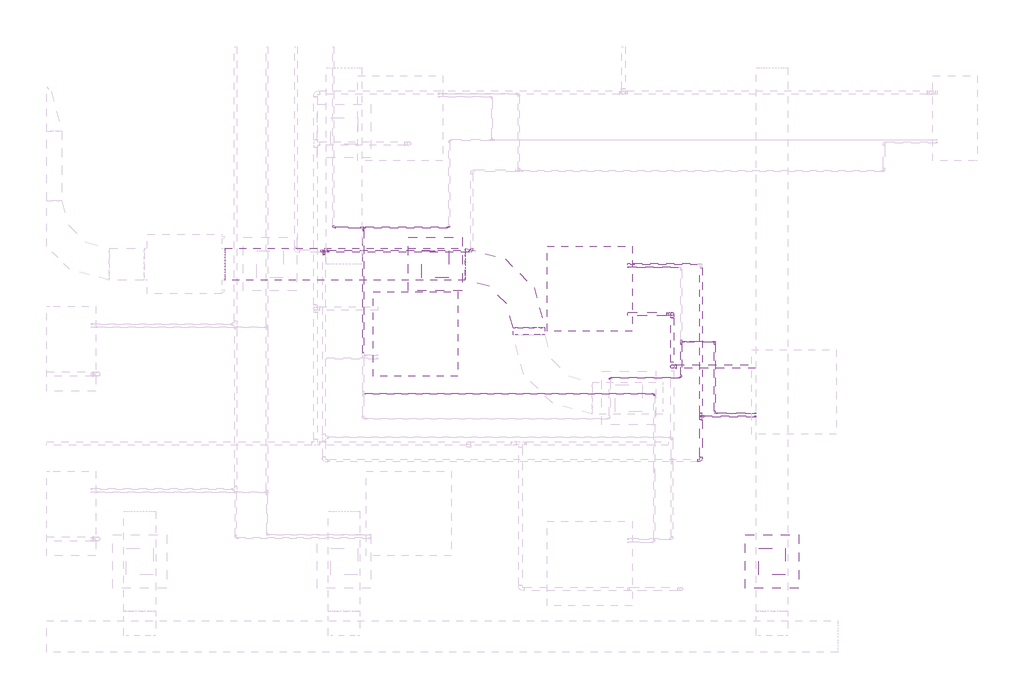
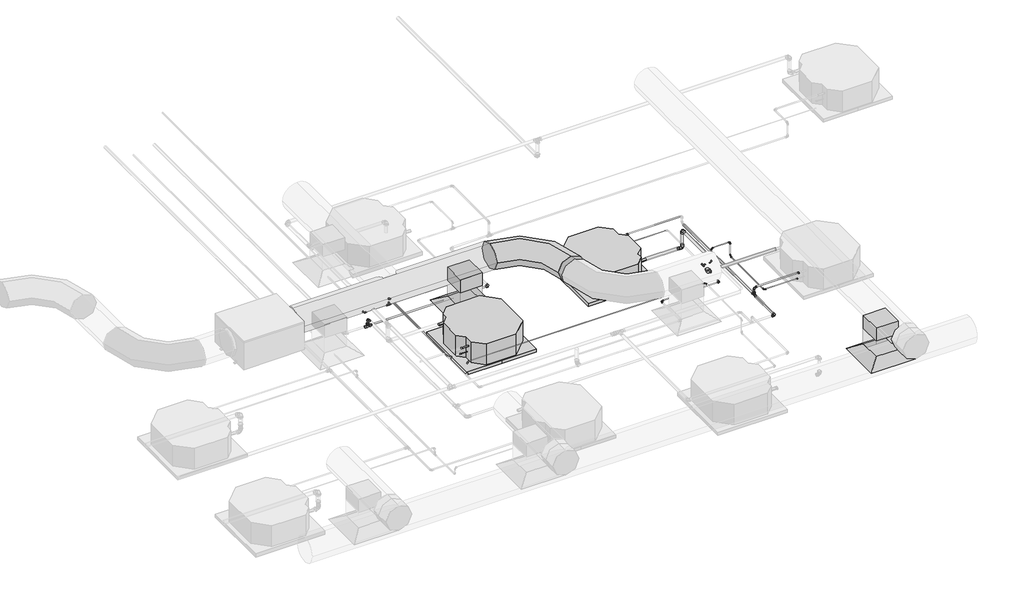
# One storey, part 7 of 21: 34 pipe fittings, 27 pipe segments, 4 duct segments, 3 duct fittings, 2 air terminals, 2 proxies.
"""IFC4 building model written with IfcOpenShell, lengths in millimetres."""

from ifc_helpers import new_model, si_unit, point, frame, frame_2d, origin, place, context, project, spatial, polyline, circle_curve, trimmed, segment, composite_curve, outline, extrude, transform, mapped, element, save
from components import air_terminal_ff221211, mechanical_equipment_53173f38, duct_fitting_550a0fe9, duct_fitting_2_d_8456317d, pipe_fitting_535881cf, pipe_fitting_ec53ccd8, pipe_fitting_1c810b01, pipe_fitting_182e23ec, pipe_fitting_c9ced03d, pipe_fitting_5aefb692, pipe_fitting_1806753b, pipe_fitting_8aefc26a, pipe_fitting_49f59843, pipe_fitting_759c20bf, pipe_fitting_fcb7d889, pipe_fitting_a6d4f0b3, pipe_fitting_ae63b9ff, pipe_fitting_c2f0a3c7, pipe_fitting_c900cfc2, pipe_fitting_16c020f5, pipe_fitting_d3e019f1, pipe_fitting_59d1f3e3, pipe_fitting_648138cd, pipe_fitting_ae0032d9, pipe_fitting_da16c1b3, pipe_fitting_5a6d96d3, pipe_fitting_3e80353c

model = new_model("IFC4")

# Units and contexts
model_context = context("Model", 3, world=origin())
ifc_project = project(units=[si_unit("LENGTHUNIT", "METRE", prefix="MILLI")], contexts=[model_context])

# Site, building, storey
site = spatial("IfcSite", under=ifc_project)
building = spatial("IfcBuilding", under=site)
storey = spatial("IfcBuildingStorey", under=building, Name="Nível 1", Elevation=0.0)

# Air terminals
placement = place(None, origin())
air_terminal_shape = air_terminal_ff221211(model_context)
element("IfcAirTerminal", 1, ObjectType="M_Difusor de retorno : 600 x 600 Face 300 x 300 Conexão", at=placement, inside=storey, context=model_context, shape_type="MappedRepresentation", body=[
    mapped(air_terminal_shape, transform((9308.4484061, -4543.7697994, 3000.0), x_axis=(0.0, -1.0, 0.0), y_axis=(1.0, 0.0, 0.0), z_axis=(0.0, 0.0, 1.0))),
])
element("IfcAirTerminal", 2, ObjectType="M_Difusor de fornecimento : 600 x 600 Face 300 x 300 Conexão", at=placement, inside=storey, context=model_context, shape_type="MappedRepresentation", body=[
    mapped(air_terminal_shape, transform((13079.0500257, -7871.8680027, 3000.0), x_axis=(1.0, 0.0, 0.0), y_axis=(0.0, 1.0, 0.0), z_axis=(0.0, 0.0, 1.0))),
])

# Proxies
mechanical_equipment_shape = mechanical_equipment_53173f38(model_context)
element("IfcBuildingElementProxy", 3, Name="Midea_VRF_Indoor_4-way Cassette_MI-90(100,112,140)Q4_DHN1-D (2nd DC) : MI2-140Q4DHN1", ObjectType="Midea_VRF_Indoor_4-way Cassette_MI-90(100,112,140)Q4_DHN1-D (2nd DC) : MI2-140Q4DHN1", at=placement, inside=storey, context=model_context, shape_type="MappedRepresentation", body=[
    mapped(mechanical_equipment_shape, transform((9087.5318022, -5325.569149, 3000.0), x_axis=(-1.0, 0.0, 0.0), y_axis=(0.0, -1.0, 0.0), z_axis=(0.0, 0.0, 1.0))),
])
element("IfcBuildingElementProxy", 4, Name="Midea_VRF_Indoor_4-way Cassette_MI-90(100,112,140)Q4_DHN1-D (2nd DC) : MI2-140Q4DHN1", ObjectType="Midea_VRF_Indoor_4-way Cassette_MI-90(100,112,140)Q4_DHN1-D (2nd DC) : MI2-140Q4DHN1", at=placement, inside=storey, context=model_context, shape_type="MappedRepresentation", body=[
    mapped(mechanical_equipment_shape, transform((11037.7783644, -4816.980613, 3000.0), x_axis=(1.0, 0.0, 0.0), y_axis=(0.0, 1.0, 0.0), z_axis=(0.0, 0.0, 1.0))),
])

# Duct fittings
duct_fitting_shape = duct_fitting_550a0fe9(model_context)
element("IfcDuctFitting", 5, ObjectType="M_Encaixe de duto retangular : Padrão", at=placement, inside=storey, context=model_context, shape_type="MappedRepresentation", body=[
    mapped(duct_fitting_shape, transform((9308.4484061, -4543.7697994, 3427.5), x_axis=(0.0, 0.0, -1.0), y_axis=(-1.0, 0.0, 0.0), z_axis=(0.0, 1.0, 0.0))),
])
element("IfcDuctFitting", 6, ObjectType="M_Encaixe de duto retangular : Padrão", at=placement, inside=storey, context=model_context, shape_type="MappedRepresentation", body=[
    mapped(duct_fitting_shape, transform((13079.0500257, -7871.8680027, 3427.5), x_axis=(0.0, 0.0, -1.0), y_axis=(0.0, -1.0, 0.0), z_axis=(-1.0, 0.0, 0.0))),
])
duct_fitting_2_d_shape = duct_fitting_2_d_8456317d(model_context)
element("IfcDuctFitting", 7, ObjectType="M_Cotovelo redondo : 2 D", at=placement, inside=storey, context=model_context, shape_type="MappedRepresentation", body=[
    mapped(duct_fitting_2_d_shape, transform((10357.1156645, -4543.7697994, 3605.0), x_axis=(0.0, 1.0, 0.0), y_axis=(-1.0, 0.0, 0.0), z_axis=(0.0, 0.0, 1.0))),
])

# Duct segments
element("IfcDuctSegment", 8, ObjectType="Torneiras / Raio curto", at=placement, inside=storey, context=model_context, shape_type="SweptSolid", body=[
    extrude(outline(composite_curve([segment(trimmed(circle_curve(frame_2d((-4543.7697994, 3605.0)), 177.5), [point((-4721.2697994, 3605.0))], [point((-4543.7697994, 3782.5))], False, "CARTESIAN"), True, "CONTINUOUS"), segment(trimmed(circle_curve(frame_2d((-4543.7697994, 3605.0)), 177.5), [point((-4543.7697994, 3782.5))], [point((-4366.2697994, 3605.0))], False, "CARTESIAN"), True, "CONTINUOUS"), segment(trimmed(circle_curve(frame_2d((-4543.7697994, 3605.0)), 177.5), [point((-4366.2697994, 3605.0))], [point((-4543.7697994, 3427.5))], False, "CARTESIAN"), True, "CONTINUOUS"), segment(trimmed(circle_curve(frame_2d((-4543.7697994, 3605.0)), 177.5), [point((-4543.7697994, 3427.5))], [point((-4721.2697994, 3605.0))], False, "CARTESIAN"), True, "CONTINUOUS")], self_intersect=False)), frame((6957.1156645, 0.0, 0.0), z_axis=(1.0, 0.0, 0.0), x_axis=(0.0, 1.0, 0.0)), (0.0, 0.0, 1.0), 2690.0),
])
element("IfcDuctSegment", 9, ObjectType="Torneiras / Raio curto", at=placement, inside=storey, context=model_context, shape_type="SweptSolid", body=[
    extrude(outline(composite_curve([segment(trimmed(circle_curve(frame_2d((3605.0, 10357.1156645)), 177.5), [point((3605.0, 10179.6156645))], [point((3427.5, 10357.1156645))], False, "CARTESIAN"), True, "CONTINUOUS"), segment(trimmed(circle_curve(frame_2d((3605.0, 10357.1156645)), 177.5), [point((3427.5, 10357.1156645))], [point((3605.0, 10534.6156645))], False, "CARTESIAN"), True, "CONTINUOUS"), segment(trimmed(circle_curve(frame_2d((3605.0, 10357.1156645)), 177.5), [point((3605.0, 10534.6156645))], [point((3782.5, 10357.1156645))], False, "CARTESIAN"), True, "CONTINUOUS"), segment(trimmed(circle_curve(frame_2d((3605.0, 10357.1156645)), 177.5), [point((3782.5, 10357.1156645))], [point((3605.0, 10179.6156645))], False, "CARTESIAN"), True, "CONTINUOUS")], self_intersect=False)), frame((0.0, -5333.7697994, 0.0), z_axis=(0.0, 1.0, 0.0), x_axis=(0.0, 0.0, 1.0)), (0.0, 0.0, 1.0), 80.0),
])
element("IfcDuctSegment", 10, ObjectType="Raios cotovelos / torneiras", at=placement, inside=storey, context=model_context, shape_type="SweptSolid", body=[
    extrude(outline(polyline([(9458.4484061, -4693.7697994), (9158.4484061, -4693.7697994), (9158.4484061, -4393.7697994), (9458.4484061, -4393.7697994), (9458.4484061, -4693.7697994)])), frame((0.0, 0.0, 3101.6), z_axis=(0.0, 0.0, 1.0), x_axis=(1.0, 0.0, 0.0)), (0.0, 0.0, 1.0), 224.3),
])
element("IfcDuctSegment", 11, ObjectType="Raios cotovelos / torneiras", at=placement, inside=storey, context=model_context, shape_type="SweptSolid", body=[
    extrude(outline(polyline([(13229.0500257, -7721.8680027), (13229.0500257, -8021.8680027), (12929.0500257, -8021.8680027), (12929.0500257, -7721.8680027), (13229.0500257, -7721.8680027)])), frame((0.0, 0.0, 3101.6), z_axis=(0.0, 0.0, 1.0), x_axis=(1.0, 0.0, 0.0)), (0.0, 0.0, 1.0), 224.3),
])

# Pipe fittings
pipe_fitting_shape = pipe_fitting_535881cf(model_context)
element("IfcPipeFitting", 12, ObjectType="Cotovelo - Soldado - CU : Padrão", at=placement, inside=storey, context=model_context, shape_type="MappedRepresentation", body=[
    mapped(pipe_fitting_shape, transform((11962.7783643, -5101.980613, 3500.0), x_axis=(0.0, 0.0, 1.0), y_axis=(0.0, -1.0, 0.0), z_axis=(1.0, 0.0, 0.0))),
])
pipe_fitting_2_shape = pipe_fitting_ec53ccd8(model_context)
element("IfcPipeFitting", 13, ObjectType="Bucha de redução reta - Soldada - CU : Padrão", at=placement, inside=storey, context=model_context, shape_type="MappedRepresentation", body=[
    mapped(pipe_fitting_2_shape, transform((11921.1783643, -5101.980613, 3252.3007379), x_axis=(-0.9999999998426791, 0.0, 1.7738146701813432e-05), y_axis=(0.0, -1.0, 0.0), z_axis=(1.7738146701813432e-05, 0.0, 0.9999999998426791))),
])
pipe_fitting_3_shape = pipe_fitting_1c810b01(model_context)
element("IfcPipeFitting", 14, ObjectType="Cotovelo - Soldado - CU : Padrão", at=placement, inside=storey, context=model_context, shape_type="MappedRepresentation", body=[
    mapped(pipe_fitting_3_shape, transform((11962.7783643, -5101.980613, 3252.3), x_axis=(0.9999999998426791, 0.0, -1.7738146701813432e-05), y_axis=(1.7738146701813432e-05, 0.0, 0.9999999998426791), z_axis=(0.0, -1.0, 0.0))),
])
pipe_fitting_4_shape = pipe_fitting_182e23ec(model_context)
element("IfcPipeFitting", 15, ObjectType="Bucha de redução reta - Soldada - CU : Padrão", at=placement, inside=storey, context=model_context, shape_type="MappedRepresentation", body=[
    mapped(pipe_fitting_4_shape, transform((8062.5318023, -4398.7799626, 3090.8), x_axis=(0.0, 0.0, 1.0), y_axis=(1.0, 0.0, 0.0), z_axis=(0.0, 1.0, 0.0))),
])
pipe_fitting_5_shape = pipe_fitting_c9ced03d(model_context)
element("IfcPipeFitting", 16, ObjectType="Bucha de redução reta - Soldada - CU : Padrão", at=placement, inside=storey, context=model_context, shape_type="MappedRepresentation", body=[
    mapped(pipe_fitting_5_shape, transform((8100.5318023, -4398.7799626, 3052.3), x_axis=(1.0, 0.0, 0.0), y_axis=(0.0, 1.0, 0.0), z_axis=(0.0, 0.0, 1.0))),
])
pipe_fitting_6_shape = pipe_fitting_5aefb692(model_context)
element("IfcPipeFitting", 17, ObjectType="Cotovelo - Soldado - CU : Padrão", at=placement, inside=storey, context=model_context, shape_type="MappedRepresentation", body=[
    mapped(pipe_fitting_6_shape, transform((9716.1752023, -4398.7799626, 3052.3), x_axis=(1.0, 0.0, 0.0), y_axis=(0.0, 1.0, 0.0), z_axis=(0.0, 0.0, 1.0))),
])
pipe_fitting_7_shape = pipe_fitting_1806753b(model_context)
element("IfcPipeFitting", 18, ObjectType="Cotovelo - Soldado - CU : Padrão", at=placement, inside=storey, context=model_context, shape_type="MappedRepresentation", body=[
    mapped(pipe_fitting_7_shape, transform((12282.5318023, -6742.208828, 3152.3), x_axis=(1.0, 0.0, 0.0), y_axis=(0.0, 1.0, 0.0), z_axis=(0.0, 0.0, 1.0))),
])
pipe_fitting_8_shape = pipe_fitting_8aefc26a(model_context)
element("IfcPipeFitting", 19, ObjectType="Tê - Soldado - CU : Padrão", at=placement, inside=storey, context=model_context, shape_type="MappedRepresentation", body=[
    mapped(pipe_fitting_8_shape, transform((12282.5318023, -6247.5771416, 3152.3), x_axis=(0.0, -1.0, 0.0), y_axis=(0.0, 0.0, -1.0), z_axis=(1.0, 0.0, 0.0))),
])
pipe_fitting_9_shape = pipe_fitting_49f59843(model_context)
element("IfcPipeFitting", 20, ObjectType="Bucha de redução reta - Soldada - CU : Padrão", at=placement, inside=storey, context=model_context, shape_type="MappedRepresentation", body=[
    mapped(pipe_fitting_9_shape, transform((8062.5318023, -4427.7585626, 3152.3), x_axis=(0.0, -1.0, 0.0), y_axis=(1.0, 0.0, 0.0), z_axis=(0.0, 0.0, 1.0))),
])
pipe_fitting_10_shape = pipe_fitting_759c20bf(model_context)
element("IfcPipeFitting", 21, ObjectType="Bucha de redução reta - Soldada - CU : Padrão", at=placement, inside=storey, context=model_context, shape_type="MappedRepresentation", body=[
    mapped(pipe_fitting_10_shape, transform((12282.5318023, -6247.5771416, 3187.604), x_axis=(0.0, 0.0, 1.0), y_axis=(0.0, 1.0, 0.0), z_axis=(-1.0, 0.0, 0.0))),
])
pipe_fitting_11_shape = pipe_fitting_fcb7d889(model_context)
element("IfcPipeFitting", 22, ObjectType="Cotovelo - Soldado - CU : Padrão", at=placement, inside=storey, context=model_context, shape_type="MappedRepresentation", body=[
    mapped(pipe_fitting_11_shape, transform((12282.5318023, -6247.5771416, 3252.2998173), x_axis=(0.0, 0.0, 1.0), y_axis=(1.0, 0.0, 0.0), z_axis=(0.0, 1.0, 0.0))),
])
pipe_fitting_12_shape = pipe_fitting_a6d4f0b3(model_context)
element("IfcPipeFitting", 23, ObjectType="Bucha de redução reta - Soldada - CU : Padrão", at=placement, inside=storey, context=model_context, shape_type="MappedRepresentation", body=[
    mapped(pipe_fitting_12_shape, transform((8502.5318047, -4157.9459916, 3146.8), x_axis=(0.0, -1.0, 0.0), y_axis=(1.0, 0.0, 0.0), z_axis=(0.0, 0.0, 1.0))),
])
pipe_fitting_13_shape = pipe_fitting_ae63b9ff(model_context)
element("IfcPipeFitting", 24, ObjectType="Cotovelo - PVC - CW : Padrão", at=placement, inside=storey, context=model_context, shape_type="MappedRepresentation", body=[
    mapped(pipe_fitting_13_shape, transform((11962.7783643, -5689.366328, 3252.299838), x_axis=(0.0, 0.0, -1.0), y_axis=(1.0, 0.0, 0.0), z_axis=(0.0, -1.0, 0.0))),
])
pipe_fitting_14_shape = pipe_fitting_c2f0a3c7(model_context)
element("IfcPipeFitting", 25, ObjectType="Cotovelo - Soldado - CU : Padrão", at=placement, inside=storey, context=model_context, shape_type="MappedRepresentation", body=[
    mapped(pipe_fitting_14_shape, transform((12180.0445605, -5413.7746998, 3150.0913589), x_axis=(0.9996161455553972, 0.0, 0.027704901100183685), y_axis=(-0.027704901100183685, 0.0, 0.9996161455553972), z_axis=(0.0, -1.0, 0.0))),
])
pipe_fitting_15_shape = pipe_fitting_c900cfc2(model_context)
element("IfcPipeFitting", 26, ObjectType="Bucha de redução reta - Soldada - CU : Padrão", at=placement, inside=storey, context=model_context, shape_type="MappedRepresentation", body=[
    mapped(pipe_fitting_15_shape, transform((11526.2372062, -4543.7697994, 3252.3085101), x_axis=(1.0, 0.0, 0.0), y_axis=(0.0, 1.0, 0.0), z_axis=(0.0, 0.0, 1.0))),
])
pipe_fitting_16_shape = pipe_fitting_16c020f5(model_context)
element("IfcPipeFitting", 27, ObjectType="Cotovelo - Soldado - CU : Padrão", at=placement, inside=storey, context=model_context, shape_type="MappedRepresentation", body=[
    mapped(pipe_fitting_16_shape, transform((8062.5318023, -4398.7799626, 3152.3), x_axis=(0.0, 0.0, 1.0), y_axis=(0.0, -1.0, 0.0), z_axis=(1.0, 0.0, 0.0))),
])
pipe_fitting_17_shape = pipe_fitting_d3e019f1(model_context)
element("IfcPipeFitting", 28, ObjectType="Bucha de redução reta - Soldada - CU : Padrão", at=placement, inside=storey, context=model_context, shape_type="MappedRepresentation", body=[
    mapped(pipe_fitting_17_shape, transform((12886.8438986, -6247.5771416, 3252.3083278), x_axis=(0.9999999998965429, 0.0, 1.4384515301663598e-05), y_axis=(0.0, 1.0, 0.0), z_axis=(-1.4384515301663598e-05, 0.0, 0.9999999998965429))),
])
pipe_fitting_18_shape = pipe_fitting_59d1f3e3(model_context)
element("IfcPipeFitting", 29, ObjectType="Bucha de redução reta - Soldada - CU : Padrão", at=placement, inside=storey, context=model_context, shape_type="MappedRepresentation", body=[
    mapped(pipe_fitting_18_shape, transform((11462.7783644, -4577.5722412, 3146.8446487), x_axis=(1.0, 0.0, 0.0), y_axis=(0.0, 1.0, 0.0), z_axis=(0.0, 0.0, 1.0))),
])
element("IfcPipeFitting", 30, ObjectType="Bucha de redução reta - Soldada - CU : Padrão", at=placement, inside=storey, context=model_context, shape_type="MappedRepresentation", body=[
    mapped(pipe_fitting_18_shape, transform((12899.5168986, -6213.7746998, 3146.8446487), x_axis=(-1.0, 0.0, 0.0), y_axis=(0.0, -1.0, 0.0), z_axis=(0.0, 0.0, 1.0))),
])
pipe_fitting_19_shape = pipe_fitting_648138cd(model_context)
element("IfcPipeFitting", 31, ObjectType="Cotovelo - Soldado - CU : Padrão", at=placement, inside=storey, context=model_context, shape_type="MappedRepresentation", body=[
    mapped(pipe_fitting_19_shape, transform((8502.5318047, -4133.9203916, 3146.8), x_axis=(0.0, 0.0, 1.0), y_axis=(0.0, -1.0, 0.0), z_axis=(1.0, 0.0, 0.0))),
])
element("IfcPipeFitting", 32, ObjectType="Cotovelo - Soldado - CU : Padrão", at=placement, inside=storey, context=model_context, shape_type="MappedRepresentation", body=[
    mapped(pipe_fitting_19_shape, transform((11761.5680489, -5995.5925198, 3346.8), x_axis=(0.0, 1.0, 0.0), y_axis=(-1.0, 0.0, 0.0), z_axis=(0.0, 0.0, 1.0))),
])
element("IfcPipeFitting", 33, ObjectType="Cotovelo - Soldado - CU : Padrão", at=placement, inside=storey, context=model_context, shape_type="MappedRepresentation", body=[
    mapped(pipe_fitting_19_shape, transform((12180.0445605, -5413.7746998, 3350.1), x_axis=(0.0, 0.0, 1.0), y_axis=(1.0, 0.0, 0.0), z_axis=(0.0, 1.0, 0.0))),
])
element("IfcPipeFitting", 34, ObjectType="Cotovelo - Soldado - CU : Padrão", at=placement, inside=storey, context=model_context, shape_type="MappedRepresentation", body=[
    mapped(pipe_fitting_19_shape, transform((12439.5169008, -5413.7746998, 3350.1), x_axis=(1.0, 0.0, 0.0), y_axis=(0.0, 0.0, -1.0), z_axis=(0.0, 1.0, 0.0))),
])
element("IfcPipeFitting", 35, ObjectType="Cotovelo - Soldado - CU : Padrão", at=placement, inside=storey, context=model_context, shape_type="MappedRepresentation", body=[
    mapped(pipe_fitting_19_shape, transform((12439.5169008, -6213.7746998, 3146.8), x_axis=(0.0, -1.0, 0.0), y_axis=(0.9999999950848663, 0.0, 9.914770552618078e-05), z_axis=(-9.914770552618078e-05, 0.0, 0.9999999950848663))),
])
element("IfcPipeFitting", 36, ObjectType="Cotovelo - Soldado - CU : Padrão", at=placement, inside=storey, context=model_context, shape_type="MappedRepresentation", body=[
    mapped(pipe_fitting_19_shape, transform((12439.5169008, -5413.7746998, 3146.8), x_axis=(0.0, 0.0, -1.0), y_axis=(0.0, -1.0, 0.0), z_axis=(-1.0, 0.0, 0.0))),
])
pipe_fitting_20_shape = pipe_fitting_ae0032d9(model_context)
element("IfcPipeFitting", 37, ObjectType="Tê - Soldado - CU : Padrão", at=placement, inside=storey, context=model_context, shape_type="MappedRepresentation", body=[
    mapped(pipe_fitting_20_shape, transform((8062.5318023, -4398.7799626, 3052.3), x_axis=(-1.0, 0.0, 0.0), y_axis=(0.0, 0.0, -1.0), z_axis=(0.0, -1.0, 0.0))),
])
pipe_fitting_21_shape = pipe_fitting_da16c1b3(model_context)
element("IfcPipeFitting", 38, ObjectType="Tê - Soldado - CU : Padrão", at=placement, inside=storey, context=model_context, shape_type="MappedRepresentation", body=[
    mapped(pipe_fitting_21_shape, transform((8502.5318047, -4133.9203916, 3046.8), x_axis=(-1.0, 0.0, 0.0), y_axis=(0.0, 0.0, -1.0), z_axis=(0.0, -1.0, 0.0))),
])
element("IfcPipeFitting", 39, ObjectType="Tê - Soldado - CU : Padrão", at=placement, inside=storey, context=model_context, shape_type="MappedRepresentation", body=[
    mapped(pipe_fitting_21_shape, transform((12062.5318047, -5413.7746998, 3146.8), x_axis=(0.0, -1.0, 0.0), y_axis=(-0.9995881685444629, 0.0, -0.028696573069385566), z_axis=(0.028696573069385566, 0.0, -0.9995881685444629))),
])
pipe_fitting_22_shape = pipe_fitting_5a6d96d3(model_context)
element("IfcPipeFitting", 40, ObjectType="Bucha de redução reta - Soldada - CU : Padrão", at=placement, inside=storey, context=model_context, shape_type="MappedRepresentation", body=[
    mapped(pipe_fitting_22_shape, transform((8502.5318047, -4133.9203916, 3071.817), x_axis=(0.0, 0.0, 1.0), y_axis=(1.0, 0.0, 0.0), z_axis=(0.0, 1.0, 0.0))),
])
element("IfcPipeFitting", 41, ObjectType="Bucha de redução reta - Soldada - CU : Padrão", at=placement, inside=storey, context=model_context, shape_type="MappedRepresentation", body=[
    mapped(pipe_fitting_22_shape, transform((12087.5385019, -5413.7746998, 3147.5179022), x_axis=(0.9995881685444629, 0.0, 0.028696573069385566), y_axis=(0.0, 1.0000000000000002, 0.0), z_axis=(-0.028696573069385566, 0.0, 0.9995881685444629))),
])
pipe_fitting_23_shape = pipe_fitting_3e80353c(model_context)
element("IfcPipeFitting", 42, ObjectType="Cotovelo - Soldado - CU : Padrão", at=placement, inside=storey, context=model_context, shape_type="MappedRepresentation", body=[
    mapped(pipe_fitting_23_shape, transform((8166.1005867, -4133.9203916, 3046.8), x_axis=(0.0, -1.0, 0.0), y_axis=(1.0, 0.0, 0.0), z_axis=(0.0, 0.0, 1.0))),
])
element("IfcPipeFitting", 43, ObjectType="Cotovelo - Soldado - CU : Padrão", at=placement, inside=storey, context=model_context, shape_type="MappedRepresentation", body=[
    mapped(pipe_fitting_23_shape, transform((9466.1005867, -4133.9203916, 3046.8), x_axis=(1.0, 0.0, 0.0), y_axis=(0.0, 1.0, 0.0), z_axis=(0.0, 0.0, 1.0))),
])
element("IfcPipeFitting", 44, ObjectType="Cotovelo - Soldado - CU : Padrão", at=placement, inside=storey, context=model_context, shape_type="MappedRepresentation", body=[
    mapped(pipe_fitting_23_shape, transform((11262.5318047, -5813.9203916, 3146.8), x_axis=(-1.0, 0.0, 0.0), y_axis=(0.0, -1.0, 0.0), z_axis=(0.0, 0.0, 1.0))),
])
element("IfcPipeFitting", 45, ObjectType="Cotovelo - Soldado - CU : Padrão", at=placement, inside=storey, context=model_context, shape_type="MappedRepresentation", body=[
    mapped(pipe_fitting_23_shape, transform((12062.5318047, -5813.9203916, 3146.8), x_axis=(1.0, 0.0, 0.0), y_axis=(0.0, 1.0, 0.0), z_axis=(0.0, 0.0, 1.0))),
])

# Pipe segments
element("IfcPipeSegment", 46, ObjectType="Plástico", at=placement, inside=storey, context=model_context, shape_type="SweptSolid", body=[
    extrude(outline(composite_curve([segment(trimmed(circle_curve(frame_2d((0.0, -20.0)), 20.0), [point((-20.0, -20.0))], [point((0.0, 0.0))], False, "CARTESIAN"), True, "CONTINUOUS"), segment(trimmed(circle_curve(frame_2d((0.0, -20.0)), 20.0), [point((0.0, 0.0))], [point((20.0, -20.0))], False, "CARTESIAN"), True, "CONTINUOUS"), segment(trimmed(circle_curve(frame_2d((0.0, -20.0)), 20.0), [point((20.0, -20.0))], [point((0.0, -40.0))], False, "CARTESIAN"), True, "CONTINUOUS"), segment(trimmed(circle_curve(frame_2d((0.0, -20.0)), 20.0), [point((0.0, -40.0))], [point((-20.0, -20.0))], False, "CARTESIAN"), True, "CONTINUOUS")], self_intersect=False)), frame((11900.9380259, -5101.980613, 3232.3010969), z_axis=(-0.9999999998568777, 0.0, 1.691876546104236e-05), x_axis=(0.0, 1.0, 0.0)), (0.0, 0.0, 1.0), 438.16),
])
element("IfcPipeSegment", 47, ObjectType="Tubos de cobre HVAC", at=placement, inside=storey, context=model_context, shape_type="SweptSolid", body=[
    extrude(outline(composite_curve([segment(trimmed(circle_curve(frame_2d((11962.7783643, -5101.980613)), 17.5), [point((11980.2783643, -5101.980613))], [point((11962.7783643, -5119.480613))], False, "CARTESIAN"), True, "CONTINUOUS"), segment(trimmed(circle_curve(frame_2d((11962.7783643, -5101.980613)), 17.5), [point((11962.7783643, -5119.480613))], [point((11945.2783643, -5101.980613))], False, "CARTESIAN"), True, "CONTINUOUS"), segment(trimmed(circle_curve(frame_2d((11962.7783643, -5101.980613)), 17.5), [point((11945.2783643, -5101.980613))], [point((11962.7783643, -5084.480613))], False, "CARTESIAN"), True, "CONTINUOUS"), segment(trimmed(circle_curve(frame_2d((11962.7783643, -5101.980613)), 17.5), [point((11962.7783643, -5084.480613))], [point((11980.2783643, -5101.980613))], False, "CARTESIAN"), True, "CONTINUOUS")], self_intersect=False)), frame((0.0, 0.0, 3293.9), z_axis=(0.0, 0.0, 1.0), x_axis=(1.0, 0.0, 0.0)), (0.0, 0.0, 1.0), 164.5),
])
element("IfcPipeSegment", 48, ObjectType="Tubos de cobre HVAC", at=placement, inside=storey, context=model_context, shape_type="SweptSolid", body=[
    extrude(outline(composite_curve([segment(trimmed(circle_curve(frame_2d((-4398.7799626, 3052.3)), 11.11), [point((-4409.8899626, 3052.3))], [point((-4398.7799626, 3063.41))], False, "CARTESIAN"), True, "CONTINUOUS"), segment(trimmed(circle_curve(frame_2d((-4398.7799626, 3052.3)), 11.11), [point((-4398.7799626, 3063.41))], [point((-4387.6699626, 3052.3))], False, "CARTESIAN"), True, "CONTINUOUS"), segment(trimmed(circle_curve(frame_2d((-4398.7799626, 3052.3)), 11.11), [point((-4387.6699626, 3052.3))], [point((-4398.7799626, 3041.19))], False, "CARTESIAN"), True, "CONTINUOUS"), segment(trimmed(circle_curve(frame_2d((-4398.7799626, 3052.3)), 11.11), [point((-4398.7799626, 3041.19))], [point((-4409.8899626, 3052.3))], False, "CARTESIAN"), True, "CONTINUOUS")], self_intersect=False)), frame((8116.1752023, 0.0, 0.0), z_axis=(1.0, 0.0, 0.0), x_axis=(0.0, 1.0, 0.0)), (0.0, 0.0, 1.0), 1566.0684),
])
element("IfcPipeSegment", 49, ObjectType="Tubos de cobre HVAC", at=placement, inside=storey, context=model_context, shape_type="SweptSolid", body=[
    extrude(outline(composite_curve([segment(trimmed(circle_curve(frame_2d((8062.5318023, -4398.7799626)), 7.935), [point((8054.5968023, -4398.7799626))], [point((8062.5318023, -4390.8449626))], False, "CARTESIAN"), True, "CONTINUOUS"), segment(trimmed(circle_curve(frame_2d((8062.5318023, -4398.7799626)), 7.935), [point((8062.5318023, -4390.8449626))], [point((8070.4668023, -4398.7799626))], False, "CARTESIAN"), True, "CONTINUOUS"), segment(trimmed(circle_curve(frame_2d((8062.5318023, -4398.7799626)), 7.935), [point((8070.4668023, -4398.7799626))], [point((8062.5318023, -4406.7149626))], False, "CARTESIAN"), True, "CONTINUOUS"), segment(trimmed(circle_curve(frame_2d((8062.5318023, -4398.7799626)), 7.935), [point((8062.5318023, -4406.7149626))], [point((8054.5968023, -4398.7799626))], False, "CARTESIAN"), True, "CONTINUOUS")], self_intersect=False)), frame((0.0, 0.0, 3103.4589), z_axis=(0.0, 0.0, 1.0), x_axis=(1.0, 0.0, 0.0)), (0.0, 0.0, 1.0), 19.8625),
])
element("IfcPipeSegment", 50, ObjectType="Tubos de cobre HVAC", at=placement, inside=storey, context=model_context, shape_type="SweptSolid", body=[
    extrude(outline(composite_curve([segment(trimmed(circle_curve(frame_2d((-4133.9203916, 3046.8)), 6.35), [point((-4140.2703916, 3046.8))], [point((-4133.9203916, 3053.15))], False, "CARTESIAN"), True, "CONTINUOUS"), segment(trimmed(circle_curve(frame_2d((-4133.9203916, 3046.8)), 6.35), [point((-4133.9203916, 3053.15))], [point((-4127.5703916, 3046.8))], False, "CARTESIAN"), True, "CONTINUOUS"), segment(trimmed(circle_curve(frame_2d((-4133.9203916, 3046.8)), 6.35), [point((-4127.5703916, 3046.8))], [point((-4133.9203916, 3040.45))], False, "CARTESIAN"), True, "CONTINUOUS"), segment(trimmed(circle_curve(frame_2d((-4133.9203916, 3046.8)), 6.35), [point((-4133.9203916, 3040.45))], [point((-4140.2703916, 3046.8))], False, "CARTESIAN"), True, "CONTINUOUS")], self_intersect=False)), frame((8527.6153047, 0.0, 0.0), z_axis=(1.0, 0.0, 0.0), x_axis=(0.0, 1.0, 0.0)), (0.0, 0.0, 1.0), 911.979282),
])
element("IfcPipeSegment", 51, ObjectType="Tubos de cobre HVAC", at=placement, inside=storey, context=model_context, shape_type="SweptSolid", body=[
    extrude(outline(composite_curve([segment(trimmed(circle_curve(frame_2d((8502.5318047, -4133.9203916)), 4.76), [point((8497.7718047, -4133.9203916))], [point((8502.5318047, -4129.1603916))], False, "CARTESIAN"), True, "CONTINUOUS"), segment(trimmed(circle_curve(frame_2d((8502.5318047, -4133.9203916)), 4.76), [point((8502.5318047, -4129.1603916))], [point((8507.2918047, -4133.9203916))], False, "CARTESIAN"), True, "CONTINUOUS"), segment(trimmed(circle_curve(frame_2d((8502.5318047, -4133.9203916)), 4.76), [point((8507.2918047, -4133.9203916))], [point((8502.5318047, -4138.6803916))], False, "CARTESIAN"), True, "CONTINUOUS"), segment(trimmed(circle_curve(frame_2d((8502.5318047, -4133.9203916)), 4.76), [point((8502.5318047, -4138.6803916))], [point((8497.7718047, -4133.9203916))], False, "CARTESIAN"), True, "CONTINUOUS")], self_intersect=False)), frame((0.0, 0.0, 3081.4914), z_axis=(0.0, 0.0, 1.0), x_axis=(1.0, 0.0, 0.0)), (0.0, 0.0, 1.0), 41.283),
])
element("IfcPipeSegment", 52, ObjectType="Tubos de cobre HVAC", at=placement, inside=storey, context=model_context, shape_type="SweptSolid", body=[
    extrude(outline(composite_curve([segment(trimmed(circle_curve(frame_2d((-4133.9203916, 3046.8)), 6.35), [point((-4140.2703916, 3046.8))], [point((-4133.9203916, 3053.15))], False, "CARTESIAN"), True, "CONTINUOUS"), segment(trimmed(circle_curve(frame_2d((-4133.9203916, 3046.8)), 6.35), [point((-4133.9203916, 3053.15))], [point((-4127.5703916, 3046.8))], False, "CARTESIAN"), True, "CONTINUOUS"), segment(trimmed(circle_curve(frame_2d((-4133.9203916, 3046.8)), 6.35), [point((-4127.5703916, 3046.8))], [point((-4133.9203916, 3040.45))], False, "CARTESIAN"), True, "CONTINUOUS"), segment(trimmed(circle_curve(frame_2d((-4133.9203916, 3046.8)), 6.35), [point((-4133.9203916, 3040.45))], [point((-4140.2703916, 3046.8))], False, "CARTESIAN"), True, "CONTINUOUS")], self_intersect=False)), frame((8192.6065867, 0.0, 0.0), z_axis=(1.0, 0.0, 0.0), x_axis=(0.0, 1.0, 0.0)), (0.0, 0.0, 1.0), 284.841718),
])
element("IfcPipeSegment", 53, ObjectType="Tubos de cobre HVAC", at=placement, inside=storey, context=model_context, shape_type="SweptSolid", body=[
    extrude(outline(composite_curve([segment(trimmed(circle_curve(frame_2d((0.0, 7.935)), 7.935), [point((0.0, 0.0))], [point((-7.935, 7.935))], False, "CARTESIAN"), True, "CONTINUOUS"), segment(trimmed(circle_curve(frame_2d((0.0, 7.935)), 7.935), [point((-7.935, 7.935))], [point((0.0, 15.87))], False, "CARTESIAN"), True, "CONTINUOUS"), segment(trimmed(circle_curve(frame_2d((0.0, 7.935)), 7.935), [point((0.0, 15.87))], [point((7.9350001, 7.935))], False, "CARTESIAN"), True, "CONTINUOUS"), segment(trimmed(circle_curve(frame_2d((0.0, 7.935)), 7.935), [point((7.9350001, 7.935))], [point((0.0, 0.0))], False, "CARTESIAN"), True, "CONTINUOUS")], self_intersect=False)), frame((11538.8961062, -4551.7047994, 3252.3085101), z_axis=(0.9999976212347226, 0.0, 0.0021811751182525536), x_axis=(0.0021811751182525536, 0.0, -0.9999976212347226)), (0.0, 0.0, 1.0), 714.6587961),
])
element("IfcPipeSegment", 54, ObjectType="Tubos de cobre HVAC", at=placement, inside=storey, context=model_context, shape_type="SweptSolid", body=[
    extrude(outline(composite_curve([segment(trimmed(circle_curve(frame_2d((-4543.7697994, 3252.3085101)), 7.95), [point((-4551.7197994, 3252.3085101))], [point((-4543.7697994, 3260.2585101))], False, "CARTESIAN"), True, "CONTINUOUS"), segment(trimmed(circle_curve(frame_2d((-4543.7697994, 3252.3085101)), 7.95), [point((-4543.7697994, 3260.2585101))], [point((-4535.8197994, 3252.3085101))], False, "CARTESIAN"), True, "CONTINUOUS"), segment(trimmed(circle_curve(frame_2d((-4543.7697994, 3252.3085101)), 7.95), [point((-4535.8197994, 3252.3085101))], [point((-4543.7697994, 3244.3585101))], False, "CARTESIAN"), True, "CONTINUOUS"), segment(trimmed(circle_curve(frame_2d((-4543.7697994, 3252.3085101)), 7.95), [point((-4543.7697994, 3244.3585101))], [point((-4551.7197994, 3252.3085101))], False, "CARTESIAN"), True, "CONTINUOUS")], self_intersect=False)), frame((11462.7783644, 0.0, 0.0), z_axis=(1.0, 0.0, 0.0), x_axis=(0.0, 1.0, 0.0)), (0.0, 0.0, 1.0), 63.4588418),
])
element("IfcPipeSegment", 55, ObjectType="Tubos de cobre HVAC", at=placement, inside=storey, context=model_context, shape_type="SweptSolid", body=[
    extrude(outline(composite_curve([segment(trimmed(circle_curve(frame_2d((0.0, 9.525)), 9.525), [point((-9.525, 9.525))], [point((0.0, 19.05))], False, "CARTESIAN"), True, "CONTINUOUS"), segment(trimmed(circle_curve(frame_2d((0.0, 9.525)), 9.525), [point((0.0, 19.05))], [point((9.525, 9.525))], False, "CARTESIAN"), True, "CONTINUOUS"), segment(trimmed(circle_curve(frame_2d((0.0, 9.525)), 9.525), [point((9.525, 9.525))], [point((0.0, 0.0))], False, "CARTESIAN"), True, "CONTINUOUS"), segment(trimmed(circle_curve(frame_2d((0.0, 9.525)), 9.525), [point((0.0, 0.0))], [point((-9.525, 9.525))], False, "CARTESIAN"), True, "CONTINUOUS")], self_intersect=False)), frame((12313.9909393, -6247.5771416, 3242.7752698), z_axis=(0.999999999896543, 0.0, 1.4384515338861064e-05), x_axis=(0.0, 1.0, 0.0)), (0.0, 0.0, 1.0), 572.8530964),
])
element("IfcPipeSegment", 56, ObjectType="Tubos de cobre HVAC", at=placement, inside=storey, context=model_context, shape_type="SweptSolid", body=[
    extrude(outline(composite_curve([segment(trimmed(circle_curve(frame_2d((12282.5318023, -6247.5771416)), 9.525), [point((12273.0068023, -6247.5771416))], [point((12282.5318023, -6238.0521416))], False, "CARTESIAN"), True, "CONTINUOUS"), segment(trimmed(circle_curve(frame_2d((12282.5318023, -6247.5771416)), 9.525), [point((12282.5318023, -6238.0521416))], [point((12292.0568023, -6247.5771416))], False, "CARTESIAN"), True, "CONTINUOUS"), segment(trimmed(circle_curve(frame_2d((12282.5318023, -6247.5771416)), 9.525), [point((12292.0568023, -6247.5771416))], [point((12282.5318023, -6257.1021416))], False, "CARTESIAN"), True, "CONTINUOUS"), segment(trimmed(circle_curve(frame_2d((12282.5318023, -6247.5771416)), 9.525), [point((12282.5318023, -6257.1021416))], [point((12273.0068023, -6247.5771416))], False, "CARTESIAN"), True, "CONTINUOUS")], self_intersect=False)), frame((0.0, 0.0, 3201.7575), z_axis=(0.0, 0.0, 1.0), x_axis=(1.0, 0.0, 0.0)), (0.0, 0.0, 1.0), 19.0833173),
])
element("IfcPipeSegment", 57, ObjectType="Tubos de cobre HVAC", at=placement, inside=storey, context=model_context, shape_type="SweptSolid", body=[
    extrude(outline(composite_curve([segment(trimmed(circle_curve(frame_2d((3152.3, 12282.5318023)), 12.7), [point((3152.3, 12295.2318023))], [point((3165.0, 12282.5318023))], False, "CARTESIAN"), True, "CONTINUOUS"), segment(trimmed(circle_curve(frame_2d((3152.3, 12282.5318023)), 12.7), [point((3165.0, 12282.5318023))], [point((3152.3, 12269.8318023))], False, "CARTESIAN"), True, "CONTINUOUS"), segment(trimmed(circle_curve(frame_2d((3152.3, 12282.5318023)), 12.7), [point((3152.3, 12269.8318023))], [point((3139.6, 12282.5318023))], False, "CARTESIAN"), True, "CONTINUOUS"), segment(trimmed(circle_curve(frame_2d((3152.3, 12282.5318023)), 12.7), [point((3139.6, 12282.5318023))], [point((3152.3, 12295.2318023))], False, "CARTESIAN"), True, "CONTINUOUS")], self_intersect=False)), frame((0.0, -6705.796828, 0.0), z_axis=(0.0, 1.0, 0.0), x_axis=(0.0, 0.0, 1.0)), (0.0, 0.0, 1.0), 422.9126864),
])
element("IfcPipeSegment", 58, ObjectType="Tubos de cobre HVAC", at=placement, inside=storey, context=model_context, shape_type="SweptSolid", body=[
    extrude(outline(composite_curve([segment(trimmed(circle_curve(frame_2d((-5995.5925198, 3346.8)), 4.76), [point((-5990.8325198, 3346.8))], [point((-5995.5925198, 3342.04))], False, "CARTESIAN"), True, "CONTINUOUS"), segment(trimmed(circle_curve(frame_2d((-5995.5925198, 3346.8)), 4.76), [point((-5995.5925198, 3342.04))], [point((-6000.3525198, 3346.8))], False, "CARTESIAN"), True, "CONTINUOUS"), segment(trimmed(circle_curve(frame_2d((-5995.5925198, 3346.8)), 4.76), [point((-6000.3525198, 3346.8))], [point((-5995.5925198, 3351.56))], False, "CARTESIAN"), True, "CONTINUOUS"), segment(trimmed(circle_curve(frame_2d((-5995.5925198, 3346.8)), 4.76), [point((-5995.5925198, 3351.56))], [point((-5990.8325198, 3346.8))], False, "CARTESIAN"), True, "CONTINUOUS")], self_intersect=False)), frame((8526.5574047, 0.0, 0.0), z_axis=(1.0, 0.0, 0.0), x_axis=(0.0, 1.0, 0.0)), (0.0, 0.0, 1.0), 3210.9850441),
])
element("IfcPipeSegment", 59, ObjectType="Tubos de cobre HVAC", at=placement, inside=storey, context=model_context, shape_type="SweptSolid", body=[
    extrude(outline(composite_curve([segment(trimmed(circle_curve(frame_2d((-5813.9203916, 3146.8)), 6.35), [point((-5820.2703916, 3146.8))], [point((-5813.9203916, 3153.15))], False, "CARTESIAN"), True, "CONTINUOUS"), segment(trimmed(circle_curve(frame_2d((-5813.9203916, 3146.8)), 6.35), [point((-5813.9203916, 3153.15))], [point((-5807.5703916, 3146.8))], False, "CARTESIAN"), True, "CONTINUOUS"), segment(trimmed(circle_curve(frame_2d((-5813.9203916, 3146.8)), 6.35), [point((-5807.5703916, 3146.8))], [point((-5813.9203916, 3140.45))], False, "CARTESIAN"), True, "CONTINUOUS"), segment(trimmed(circle_curve(frame_2d((-5813.9203916, 3146.8)), 6.35), [point((-5813.9203916, 3140.45))], [point((-5820.2703916, 3146.8))], False, "CARTESIAN"), True, "CONTINUOUS")], self_intersect=False)), frame((11289.0378047, 0.0, 0.0), z_axis=(1.0, 0.0, 0.0), x_axis=(0.0, 1.0, 0.0)), (0.0, 0.0, 1.0), 746.988),
])
element("IfcPipeSegment", 60, ObjectType="Tubos de cobre HVAC", at=placement, inside=storey, context=model_context, shape_type="SweptSolid", body=[
    extrude(outline(composite_curve([segment(trimmed(circle_curve(frame_2d((0.0, -4.76)), 4.76), [point((-4.76, -4.76))], [point((0.0, 0.0))], False, "CARTESIAN"), True, "CONTINUOUS"), segment(trimmed(circle_curve(frame_2d((0.0, -4.76)), 4.76), [point((0.0, 0.0))], [point((4.76, -4.76))], False, "CARTESIAN"), True, "CONTINUOUS"), segment(trimmed(circle_curve(frame_2d((0.0, -4.76)), 4.76), [point((4.76, -4.76))], [point((0.0, -9.52))], False, "CARTESIAN"), True, "CONTINUOUS"), segment(trimmed(circle_curve(frame_2d((0.0, -4.76)), 4.76), [point((0.0, -9.52))], [point((-4.76, -4.76))], False, "CARTESIAN"), True, "CONTINUOUS")], self_intersect=False)), frame((12038.5058446, -4577.5722412, 3142.0418179), z_axis=(-0.9999999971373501, 0.0, 7.566571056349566e-05), x_axis=(0.0, 1.0, 0.0)), (0.0, 0.0, 1.0), 566.053442),
])
element("IfcPipeSegment", 61, ObjectType="Tubos de cobre HVAC", at=placement, inside=storey, context=model_context, shape_type="SweptSolid", body=[
    extrude(outline(composite_curve([segment(trimmed(circle_curve(frame_2d((0.0, -4.76)), 4.76), [point((-4.76, -4.76))], [point((0.0, 0.0))], False, "CARTESIAN"), True, "CONTINUOUS"), segment(trimmed(circle_curve(frame_2d((0.0, -4.76)), 4.76), [point((0.0, 0.0))], [point((4.76, -4.76))], False, "CARTESIAN"), True, "CONTINUOUS"), segment(trimmed(circle_curve(frame_2d((0.0, -4.76)), 4.76), [point((4.76, -4.76))], [point((0.0, -9.52))], False, "CARTESIAN"), True, "CONTINUOUS"), segment(trimmed(circle_curve(frame_2d((0.0, -4.76)), 4.76), [point((0.0, -9.52))], [point((-4.76, -4.76))], False, "CARTESIAN"), True, "CONTINUOUS")], self_intersect=False)), frame((12463.5429726, -6213.7746998, 3142.0423821), z_axis=(0.9999999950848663, 0.0, 9.914770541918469e-05), x_axis=(0.0, -1.0, 0.0)), (0.0, 0.0, 1.0), 426.3),
])
element("IfcPipeSegment", 62, ObjectType="Tubos de cobre HVAC", at=placement, inside=storey, context=model_context, shape_type="SweptSolid", body=[
    extrude(outline(composite_curve([segment(trimmed(circle_curve(frame_2d((3146.8, 12439.5169008)), 4.76), [point((3146.8, 12444.2769008))], [point((3151.56, 12439.5169008))], False, "CARTESIAN"), True, "CONTINUOUS"), segment(trimmed(circle_curve(frame_2d((3146.8, 12439.5169008)), 4.76), [point((3151.56, 12439.5169008))], [point((3146.8, 12434.7569008))], False, "CARTESIAN"), True, "CONTINUOUS"), segment(trimmed(circle_curve(frame_2d((3146.8, 12439.5169008)), 4.76), [point((3146.8, 12434.7569008))], [point((3142.04, 12439.5169008))], False, "CARTESIAN"), True, "CONTINUOUS"), segment(trimmed(circle_curve(frame_2d((3146.8, 12439.5169008)), 4.76), [point((3142.04, 12439.5169008))], [point((3146.8, 12444.2769008))], False, "CARTESIAN"), True, "CONTINUOUS")], self_intersect=False)), frame((0.0, -6189.7490998, 0.0), z_axis=(0.0, 1.0, 0.0), x_axis=(0.0, 0.0, 1.0)), (0.0, 0.0, 1.0), 751.9488),
])
element("IfcPipeSegment", 63, ObjectType="Tubos de cobre HVAC", at=placement, inside=storey, context=model_context, shape_type="SweptSolid", body=[
    extrude(outline(composite_curve([segment(trimmed(circle_curve(frame_2d((0.0, 4.76)), 4.76), [point((0.0, 0.0))], [point((-4.7599999, 4.76))], False, "CARTESIAN"), True, "CONTINUOUS"), segment(trimmed(circle_curve(frame_2d((0.0, 4.76)), 4.76), [point((-4.7599999, 4.76))], [point((0.0, 9.52))], False, "CARTESIAN"), True, "CONTINUOUS"), segment(trimmed(circle_curve(frame_2d((0.0, 4.76)), 4.76), [point((0.0, 9.52))], [point((4.76, 4.76))], False, "CARTESIAN"), True, "CONTINUOUS"), segment(trimmed(circle_curve(frame_2d((0.0, 4.76)), 4.76), [point((4.76, 4.76))], [point((0.0, 0.0))], False, "CARTESIAN"), True, "CONTINUOUS")], self_intersect=False)), frame((12097.2089177, -5418.5346998, 3147.7955243), z_axis=(0.9996161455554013, 0.0, 0.027704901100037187), x_axis=(0.027704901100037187, 0.0, -0.9996161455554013)), (0.0, 0.0, 1.0), 58.8418518),
])
element("IfcPipeSegment", 64, ObjectType="Tubos de cobre HVAC", at=placement, inside=storey, context=model_context, shape_type="SweptSolid", body=[
    extrude(outline(composite_curve([segment(trimmed(circle_curve(frame_2d((3152.3, 12282.5318023)), 12.7), [point((3152.3, 12295.2318023))], [point((3165.0, 12282.5318023))], False, "CARTESIAN"), True, "CONTINUOUS"), segment(trimmed(circle_curve(frame_2d((3152.3, 12282.5318023)), 12.7), [point((3165.0, 12282.5318023))], [point((3152.3, 12269.8318023))], False, "CARTESIAN"), True, "CONTINUOUS"), segment(trimmed(circle_curve(frame_2d((3152.3, 12282.5318023)), 12.7), [point((3152.3, 12269.8318023))], [point((3139.6, 12282.5318023))], False, "CARTESIAN"), True, "CONTINUOUS"), segment(trimmed(circle_curve(frame_2d((3152.3, 12282.5318023)), 12.7), [point((3139.6, 12282.5318023))], [point((3152.3, 12295.2318023))], False, "CARTESIAN"), True, "CONTINUOUS")], self_intersect=False)), frame((0.0, -6212.2701416, 0.0), z_axis=(0.0, 1.0, 0.0), x_axis=(0.0, 0.0, 1.0)), (0.0, 0.0, 1.0), 1626.8628423),
])
element("IfcPipeSegment", 65, ObjectType="Plástico", at=placement, inside=storey, context=model_context, shape_type="SweptSolid", body=[
    extrude(outline(composite_curve([segment(trimmed(circle_curve(frame_2d((0.0, 20.0)), 20.0), [point((-20.0, 20.0))], [point((0.0, 40.0))], False, "CARTESIAN"), True, "CONTINUOUS"), segment(trimmed(circle_curve(frame_2d((0.0, 20.0)), 20.0), [point((0.0, 40.0))], [point((20.0, 20.0))], False, "CARTESIAN"), True, "CONTINUOUS"), segment(trimmed(circle_curve(frame_2d((0.0, 20.0)), 20.0), [point((20.0, 20.0))], [point((0.0, 0.0))], False, "CARTESIAN"), True, "CONTINUOUS"), segment(trimmed(circle_curve(frame_2d((0.0, 20.0)), 20.0), [point((0.0, 0.0))], [point((-20.0, 20.0))], False, "CARTESIAN"), True, "CONTINUOUS")], self_intersect=False)), frame((12007.7787624, -5689.366328, 3232.3002546), z_axis=(0.9999999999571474, 0.0, 9.257720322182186e-06), x_axis=(0.0, 1.0, 0.0)), (0.0, 0.0, 1.0), 891.7383214),
])
element("IfcPipeSegment", 66, ObjectType="Plástico", at=placement, inside=storey, context=model_context, shape_type="SweptSolid", body=[
    extrude(outline(composite_curve([segment(trimmed(circle_curve(frame_2d((11962.7783643, -5689.366328)), 20.0), [point((11982.7783643, -5689.366328))], [point((11962.7783643, -5709.366328))], False, "CARTESIAN"), True, "CONTINUOUS"), segment(trimmed(circle_curve(frame_2d((11962.7783643, -5689.366328)), 20.0), [point((11962.7783643, -5709.366328))], [point((11942.7783643, -5689.366328))], False, "CARTESIAN"), True, "CONTINUOUS"), segment(trimmed(circle_curve(frame_2d((11962.7783643, -5689.366328)), 20.0), [point((11942.7783643, -5689.366328))], [point((11962.7783643, -5669.366328))], False, "CARTESIAN"), True, "CONTINUOUS"), segment(trimmed(circle_curve(frame_2d((11962.7783643, -5689.366328)), 20.0), [point((11962.7783643, -5669.366328))], [point((11982.7783643, -5689.366328))], False, "CARTESIAN"), True, "CONTINUOUS")], self_intersect=False)), frame((0.0, 0.0, 3297.3000509), z_axis=(0.0, 0.0, 1.0), x_axis=(1.0, 0.0, 0.0)), (0.0, 0.0, 1.0), 157.2499491),
])
element("IfcPipeSegment", 67, ObjectType="Tubos de cobre HVAC", at=placement, inside=storey, context=model_context, shape_type="SweptSolid", body=[
    extrude(outline(composite_curve([segment(trimmed(circle_curve(frame_2d((3500.0, 11962.7783643)), 17.5), [point((3500.0, 11945.2783643))], [point((3482.5, 11962.7783643))], False, "CARTESIAN"), True, "CONTINUOUS"), segment(trimmed(circle_curve(frame_2d((3500.0, 11962.7783643)), 17.5), [point((3482.5, 11962.7783643))], [point((3500.0, 11980.2783643))], False, "CARTESIAN"), True, "CONTINUOUS"), segment(trimmed(circle_curve(frame_2d((3500.0, 11962.7783643)), 17.5), [point((3500.0, 11980.2783643))], [point((3517.5, 11962.7783643))], False, "CARTESIAN"), True, "CONTINUOUS"), segment(trimmed(circle_curve(frame_2d((3500.0, 11962.7783643)), 17.5), [point((3517.5, 11962.7783643))], [point((3500.0, 11945.2783643))], False, "CARTESIAN"), True, "CONTINUOUS")], self_intersect=False)), frame((0.0, -5643.464828, 0.0), z_axis=(0.0, 1.0, 0.0), x_axis=(0.0, 0.0, 1.0)), (0.0, 0.0, 1.0), 499.8842149),
])
element("IfcPipeSegment", 68, ObjectType="Tubos de cobre HVAC", at=placement, inside=storey, context=model_context, shape_type="SweptSolid", body=[
    extrude(outline(composite_curve([segment(trimmed(circle_curve(frame_2d((3146.8, 12062.5318047)), 6.35), [point((3146.8, 12068.8818047))], [point((3153.15, 12062.5318047))], False, "CARTESIAN"), True, "CONTINUOUS"), segment(trimmed(circle_curve(frame_2d((3146.8, 12062.5318047)), 6.35), [point((3153.15, 12062.5318047))], [point((3146.8, 12056.1818047))], False, "CARTESIAN"), True, "CONTINUOUS"), segment(trimmed(circle_curve(frame_2d((3146.8, 12062.5318047)), 6.35), [point((3146.8, 12056.1818047))], [point((3140.45, 12062.5318047))], False, "CARTESIAN"), True, "CONTINUOUS"), segment(trimmed(circle_curve(frame_2d((3146.8, 12062.5318047)), 6.35), [point((3140.45, 12062.5318047))], [point((3146.8, 12068.8818047))], False, "CARTESIAN"), True, "CONTINUOUS")], self_intersect=False)), frame((0.0, -5787.4143916, 0.0), z_axis=(0.0, 1.0, 0.0), x_axis=(0.0, 0.0, 1.0)), (0.0, 0.0, 1.0), 348.5561918),
])
element("IfcPipeSegment", 69, ObjectType="Tubos de cobre HVAC", at=placement, inside=storey, context=model_context, shape_type="SweptSolid", body=[
    extrude(outline(composite_curve([segment(trimmed(circle_curve(frame_2d((12180.0445605, -5413.7746998)), 4.76), [point((12175.2845605, -5413.7746998))], [point((12180.0445605, -5409.0146998))], False, "CARTESIAN"), True, "CONTINUOUS"), segment(trimmed(circle_curve(frame_2d((12180.0445605, -5413.7746998)), 4.76), [point((12180.0445605, -5409.0146998))], [point((12184.8045605, -5413.7746998))], False, "CARTESIAN"), True, "CONTINUOUS"), segment(trimmed(circle_curve(frame_2d((12180.0445605, -5413.7746998)), 4.76), [point((12184.8045605, -5413.7746998))], [point((12180.0445605, -5418.5346998))], False, "CARTESIAN"), True, "CONTINUOUS"), segment(trimmed(circle_curve(frame_2d((12180.0445605, -5413.7746998)), 4.76), [point((12180.0445605, -5418.5346998))], [point((12175.2845605, -5413.7746998))], False, "CARTESIAN"), True, "CONTINUOUS")], self_intersect=False)), frame((0.0, 0.0, 3174.1169589), z_axis=(0.0, 0.0, 1.0), x_axis=(1.0, 0.0, 0.0)), (0.0, 0.0, 1.0), 151.9574411),
])
element("IfcPipeSegment", 70, ObjectType="Tubos de cobre HVAC", at=placement, inside=storey, context=model_context, shape_type="SweptSolid", body=[
    extrude(outline(composite_curve([segment(trimmed(circle_curve(frame_2d((-5413.7746998, 3350.1)), 4.76), [point((-5418.5346998, 3350.1))], [point((-5413.7746998, 3354.86))], False, "CARTESIAN"), True, "CONTINUOUS"), segment(trimmed(circle_curve(frame_2d((-5413.7746998, 3350.1)), 4.76), [point((-5413.7746998, 3354.86))], [point((-5409.0146998, 3350.1))], False, "CARTESIAN"), True, "CONTINUOUS"), segment(trimmed(circle_curve(frame_2d((-5413.7746998, 3350.1)), 4.76), [point((-5409.0146998, 3350.1))], [point((-5413.7746998, 3345.34))], False, "CARTESIAN"), True, "CONTINUOUS"), segment(trimmed(circle_curve(frame_2d((-5413.7746998, 3350.1)), 4.76), [point((-5413.7746998, 3345.34))], [point((-5418.5346998, 3350.1))], False, "CARTESIAN"), True, "CONTINUOUS")], self_intersect=False)), frame((12204.0701605, 0.0, 0.0), z_axis=(1.0, 0.0, 0.0), x_axis=(0.0, 1.0, 0.0)), (0.0, 0.0, 1.0), 211.4211403),
])
element("IfcPipeSegment", 71, ObjectType="Tubos de cobre HVAC", at=placement, inside=storey, context=model_context, shape_type="SweptSolid", body=[
    extrude(outline(composite_curve([segment(trimmed(circle_curve(frame_2d((12439.5169008, -5413.7746998)), 4.76), [point((12444.2769008, -5413.7746998))], [point((12439.5169008, -5418.5346998))], False, "CARTESIAN"), True, "CONTINUOUS"), segment(trimmed(circle_curve(frame_2d((12439.5169008, -5413.7746998)), 4.76), [point((12439.5169008, -5418.5346998))], [point((12434.7569008, -5413.7746998))], False, "CARTESIAN"), True, "CONTINUOUS"), segment(trimmed(circle_curve(frame_2d((12439.5169008, -5413.7746998)), 4.76), [point((12434.7569008, -5413.7746998))], [point((12439.5169008, -5409.0146998))], False, "CARTESIAN"), True, "CONTINUOUS"), segment(trimmed(circle_curve(frame_2d((12439.5169008, -5413.7746998)), 4.76), [point((12439.5169008, -5409.0146998))], [point((12444.2769008, -5413.7746998))], False, "CARTESIAN"), True, "CONTINUOUS")], self_intersect=False)), frame((0.0, 0.0, 3170.8256), z_axis=(0.0, 0.0, 1.0), x_axis=(1.0, 0.0, 0.0)), (0.0, 0.0, 1.0), 155.2488),
])
element("IfcPipeSegment", 72, ObjectType="Tubos de cobre HVAC", at=placement, inside=storey, context=model_context, shape_type="SweptSolid", body=[
    extrude(outline(composite_curve([segment(trimmed(circle_curve(frame_2d((3146.8, 8502.5318047)), 7.935), [point((3146.8, 8494.5968047))], [point((3138.865, 8502.5318047))], False, "CARTESIAN"), True, "CONTINUOUS"), segment(trimmed(circle_curve(frame_2d((3146.8, 8502.5318047)), 7.935), [point((3138.865, 8502.5318047))], [point((3146.8, 8510.4668047))], False, "CARTESIAN"), True, "CONTINUOUS"), segment(trimmed(circle_curve(frame_2d((3146.8, 8502.5318047)), 7.935), [point((3146.8, 8510.4668047))], [point((3154.735, 8502.5318047))], False, "CARTESIAN"), True, "CONTINUOUS"), segment(trimmed(circle_curve(frame_2d((3146.8, 8502.5318047)), 7.935), [point((3154.735, 8502.5318047))], [point((3146.8, 8494.5968047))], False, "CARTESIAN"), True, "CONTINUOUS")], self_intersect=False)), frame((0.0, -5537.3421708, 0.0), z_axis=(0.0, 1.0, 0.0), x_axis=(0.0, 0.0, 1.0)), (0.0, 0.0, 1.0), 1369.7217792),
])

save(model, "model.ifc")
